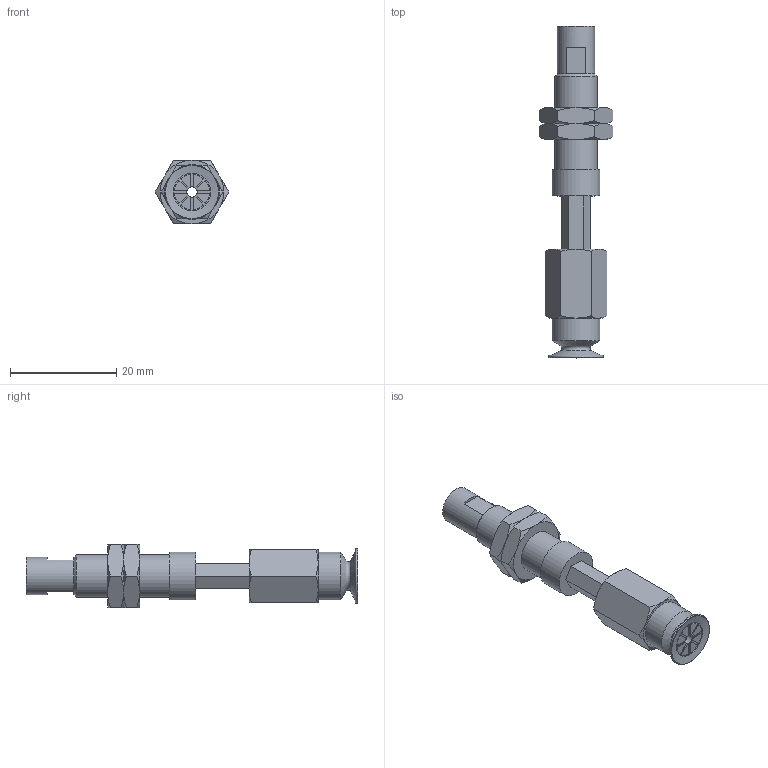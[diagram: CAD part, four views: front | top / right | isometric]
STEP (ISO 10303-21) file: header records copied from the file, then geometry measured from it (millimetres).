
FILE_DESCRIPTION(('STEP AP203'),'1');
FILE_NAME('.stp','2025-08-12T08:02:42',(' '),(' '),'Spatial InterOp 3D',' ',' ');
FILE_SCHEMA(('CONFIG_CONTROL_DESIGN'));
Length unit declared in the file: millimetre
Products named in the file (6): BNABPATH-10B-10-※; NAPATH-10A-10--F; Nut-10A-S; BPAG-10B-※; NAPATH-10A-10--M; ADAPTER
Assembly tree (6 placements, depth 2):
  BNABPATH-10B-10-※
    NAPATH-10A-10--F
    Nut-10A-S  x2
    BPAG-10B-※
    NAPATH-10A-10--M
    ADAPTER
Bounding box: 13.86 x 62.5 x 12 mm (x, y, z)
Volume: 3521.2 mm3; surface area: 4148.4 mm2
Topology: 6 solids, 6 shells, 157 faces, 364 edges, 226 vertices
Faces by surface type: plane 77, cone 46, cylinder 23, torus 11
Full cylindrical faces by diameter (mm): 2 x3, 4 x2, 4.134 x1, 6 x2, 7 x2, 7.188 x2, 8 x1, 9 x2
Entity records: 4098 total; most frequent: CARTESIAN_POINT 893, DIRECTION 612, ORIENTED_EDGE 548, EDGE_CURVE 274, AXIS2_PLACEMENT_3D 245, VERTEX_POINT 190, EDGE_LOOP 184, FACE_OUTER_BOUND 159
